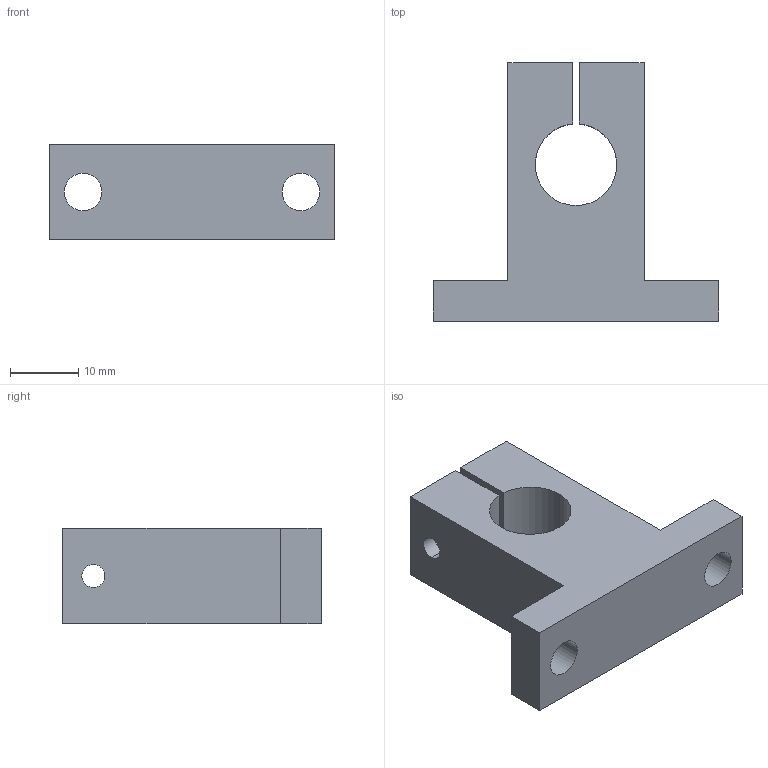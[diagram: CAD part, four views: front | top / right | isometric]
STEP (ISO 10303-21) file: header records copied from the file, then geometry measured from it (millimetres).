
FILE_DESCRIPTION((''),'2;1');
FILE_NAME('C:\Documents and Settings\ｿﾀﾀ蠑ｷ1\ｹﾙﾅﾁ ﾈｭｸ饅\ｺﾎﾇｰﾆﾄﾀﾏ\ﾁｦﾇｰ\SK\SK12.stp','2005-06-15T17:40:15',('ｿﾀﾀ蠑ｷ1'),(''),'Autodesk Inventor 9','Autodesk Inventor 9','');
FILE_SCHEMA(('AUTOMOTIVE_DESIGN { 1 0 10303 214 1 1 1 1 }'));
Length unit declared in the file: millimetre
Products named in the file (1): SK__
Bounding box: 42 x 38 x 14 mm (x, y, z)
Volume: 10101.5 mm3; surface area: 4879.7 mm2
Topology: 1 solids, 1 shells, 27 faces, 72 edges, 48 vertices
Faces by surface type: plane 13, bspline 11, cylinder 3
Entity records: 1021 total; most frequent: CARTESIAN_POINT 321, ORIENTED_EDGE 144, DIRECTION 132, EDGE_CURVE 72, VERTEX_POINT 48, VECTOR 46, LINE 46, AXIS2_PLACEMENT_3D 43
